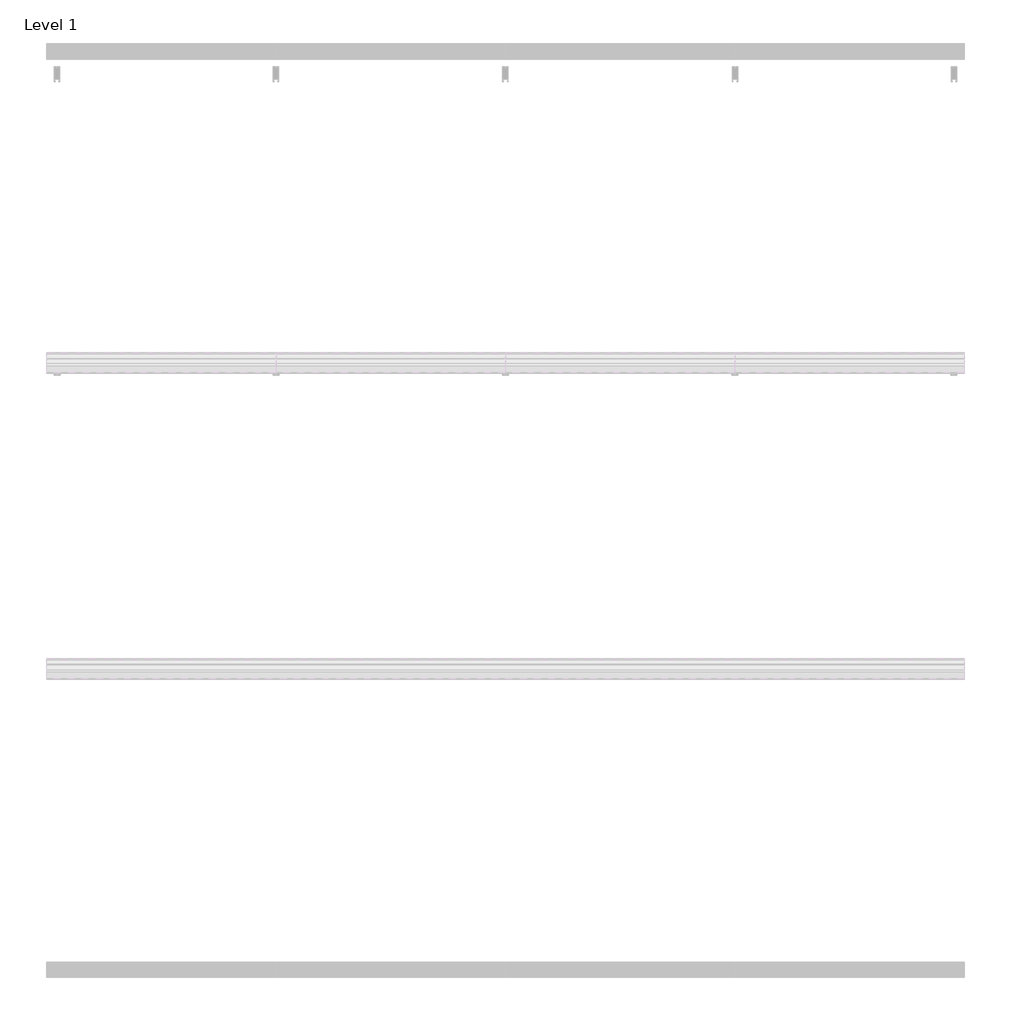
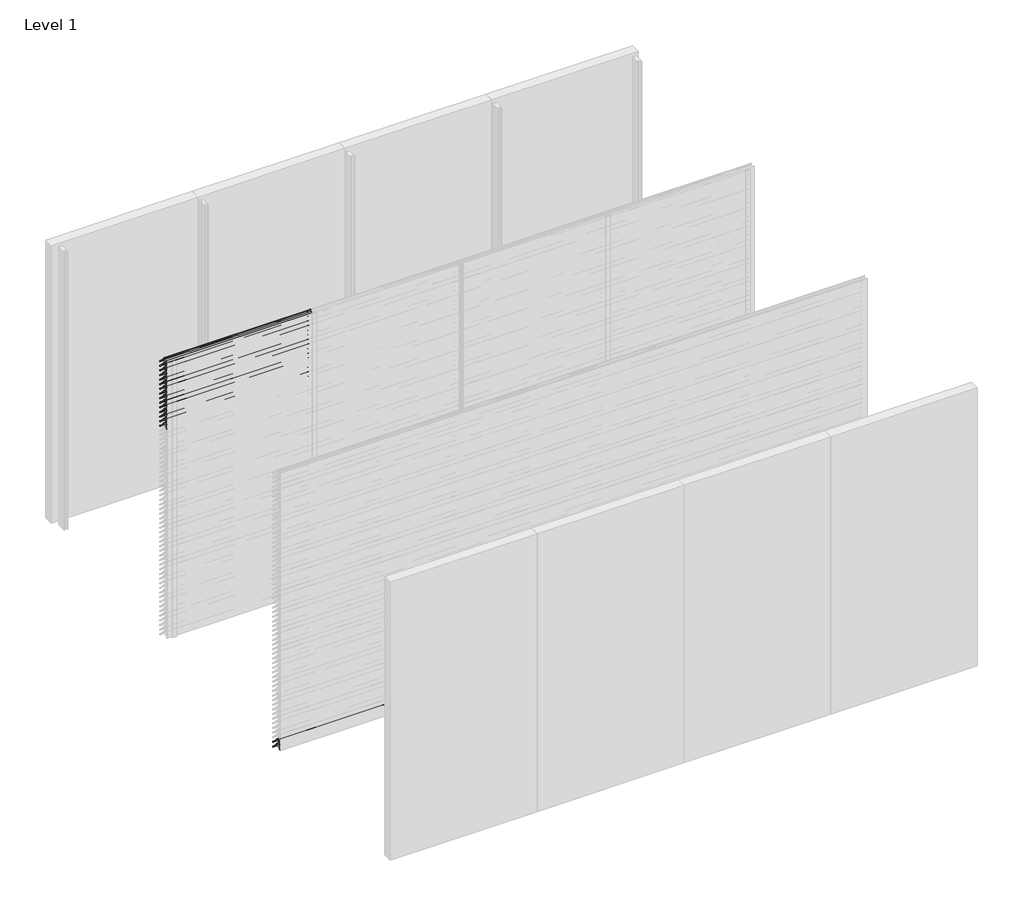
# One storey, part 92 of 173: 17 proxies.
"""IFC4 building model written with IfcOpenShell, lengths in millimetres."""

import ifcopenshell
import ifcopenshell.guid

model = None  # the IFC model being written
_history = None  # IfcOwnerHistory: only IFC2X3 demands one
_inside = {}  # id of a spatial element -> (the spatial element, [elements in it])
_under = {}  # id of a project, library or spatial element -> (it, [spatial elements below it])
_declared = {}  # id of a project -> (the project, [libraries it declares])
_typed = {}  # id of a type object -> (the type object, [elements of that type])
_made_of = {}  # id of a material, layer set ... -> (it, [elements and type objects made of it])


def new_model(schema):
    """Start an empty IFC model of exactly this schema.

    Asked for "IFC4X3", IfcOpenShell would pick the latest addendum, in which some entities
    have other attributes; the version numbers below select the first issue.
    IFC2X3 requires an IfcOwnerHistory on every rooted entity: one is made here for all.
    """
    global model, _history
    if schema == "IFC4X3":
        model = ifcopenshell.file(schema_version=(4, 3, 0, 0))
    else:
        model = ifcopenshell.file(schema=schema)
    _inside.clear()
    _under.clear()
    _declared.clear()
    _typed.clear()
    _made_of.clear()
    _history = None
    if model.schema == "IFC2X3":
        org = make("IfcOrganization", Name="unknown")
        user = make(
            "IfcPersonAndOrganization",
            ThePerson=make("IfcPerson", FamilyName="unknown"),
            TheOrganization=org,
        )
        app = make(
            "IfcApplication",
            ApplicationDeveloper=org,
            Version="unknown",
            ApplicationFullName="unknown",
            ApplicationIdentifier="unknown",
        )
        _history = make(
            "IfcOwnerHistory",
            OwningUser=user,
            OwningApplication=app,
            ChangeAction="ADDED",
            CreationDate=0,
        )
    return model


def make(cls, **values):
    """One entity of the class cls with the attributes given. An attribute that is None is left unset."""
    return model.create_entity(
        cls, **{name: value for name, value in values.items() if value is not None}
    )


def rooted(cls, **values):
    """An entity with a GlobalId (a new one), such as an element, a storey or a relation."""
    return make(cls, GlobalId=ifcopenshell.guid.new(), OwnerHistory=_history, **values)


def si_unit(unit_type, name, prefix=None):
    """IfcSIUnit, for example si_unit("LENGTHUNIT", "METRE", prefix="MILLI")."""
    return make("IfcSIUnit", UnitType=unit_type, Prefix=prefix, Name=name)


def assignment(units):
    """IfcUnitAssignment: the units of a project."""
    return None if units is None else make("IfcUnitAssignment", Units=units)


def point(xyz):
    """IfcCartesianPoint."""
    return None if xyz is None else make("IfcCartesianPoint", Coordinates=xyz)


def direction(xyz):
    """IfcDirection."""
    return None if xyz is None else make("IfcDirection", DirectionRatios=xyz)


def frame(location, z_axis=None, x_axis=None):
    """IfcAxis2Placement3D, a coordinate frame: its origin and axes. An axis left out is left unset."""
    return make(
        "IfcAxis2Placement3D",
        Location=point(location),
        Axis=direction(z_axis),
        RefDirection=direction(x_axis),
    )


def frame_2d(location, x_axis=None):
    """IfcAxis2Placement2D, a coordinate frame in the plane: its origin and x axis."""
    return make(
        "IfcAxis2Placement2D", Location=point(location), RefDirection=direction(x_axis)
    )


def origin():
    """The frame at (0, 0, 0) with its axes left unset."""
    return frame((0.0, 0.0, 0.0))


def place(relative_to, where):
    """IfcLocalPlacement: puts the frame where relative to a parent placement (None: the world)."""
    return make(
        "IfcLocalPlacement", PlacementRelTo=relative_to, RelativePlacement=where
    )


def context(
    kind, dimensions, precision=None, world=None, true_north=None, identifier=None
):
    """IfcGeometricRepresentationContext, for example the 3D "Model" context."""
    return make(
        "IfcGeometricRepresentationContext",
        ContextIdentifier=identifier,
        ContextType=kind,
        CoordinateSpaceDimension=dimensions,
        Precision=precision,
        WorldCoordinateSystem=world,
        TrueNorth=true_north,
    )


def project(units=None, contexts=None):
    """IfcProject with its units and contexts."""
    return rooted(
        "IfcProject",
        Name="project",
        RepresentationContexts=contexts,
        UnitsInContext=assignment(units),
    )


def spatial(cls, under=None, at=None, **own):
    """A site, building, storey or space (cls), placed at a placement, below another one or the project."""
    s = rooted(cls, ObjectPlacement=at, **own)
    if under is not None:
        _under.setdefault(under.id(), (under, []))[1].append(s)
    return s


def polyline(points):
    """IfcPolyline through the points."""
    return make("IfcPolyline", Points=[point(p) for p in points])


def circle_curve(where, radius):
    """IfcCircle in the frame where."""
    return make("IfcCircle", Position=where, Radius=radius)


def trimmed(basis, trim1, trim2, sense, master):
    """IfcTrimmedCurve: the piece of a basis curve between two trims."""
    return make(
        "IfcTrimmedCurve",
        BasisCurve=basis,
        Trim1=trim1,
        Trim2=trim2,
        SenseAgreement=sense,
        MasterRepresentation=master,
    )


def segment(curve, same_sense, transition):
    """IfcCompositeCurveSegment."""
    return make(
        "IfcCompositeCurveSegment",
        Transition=transition,
        SameSense=same_sense,
        ParentCurve=curve,
    )


def composite_curve(segments, self_intersect=None):
    """IfcCompositeCurve: segments joined end to end."""
    return make("IfcCompositeCurve", Segments=segments, SelfIntersect=self_intersect)


def outline(outer, holes=None, kind="AREA"):
    """IfcArbitraryClosedProfileDef: a profile drawn as a closed curve; with holes, ...WithVoids."""
    if holes is None:
        return make("IfcArbitraryClosedProfileDef", ProfileType=kind, OuterCurve=outer)
    return make(
        "IfcArbitraryProfileDefWithVoids",
        ProfileType=kind,
        OuterCurve=outer,
        InnerCurves=holes,
    )


def extrude(swept, where, along, depth):
    """IfcExtrudedAreaSolid: the profile swept, set in the frame where, extruded along a direction by depth."""
    return make(
        "IfcExtrudedAreaSolid",
        SweptArea=swept,
        Position=where,
        ExtrudedDirection=direction(along),
        Depth=depth,
    )


def shape(context_of_items, identifier, shape_type, items):
    """IfcShapeRepresentation: the items that make up one representation, for example the "Body"."""
    return make(
        "IfcShapeRepresentation",
        ContextOfItems=context_of_items,
        RepresentationIdentifier=identifier,
        RepresentationType=shape_type,
        Items=items,
    )


def made_of(thing, what):
    """Note that an element or type object is made of a material, layer set ...; save() writes the relation."""
    if what is not None:
        _made_of.setdefault(what.id(), (what, []))[1].append(thing)
    return thing


def element(
    cls,
    number,
    at=None,
    inside=None,
    cuts=None,
    type_object=None,
    material=None,
    context=None,
    identifier="Body",
    shape_type=None,
    held_by="IfcProductDefinitionShape",
    body=None,
    shapes=None,
    **own,
):
    """One element of the class cls, such as IfcWall. Its Tag is "e" and its number.

    at: its placement. inside: the storey or other place that contains it. cuts: it is an
    opening in that element (IfcRelVoidsElement). A single representation is given by context,
    identifier, shape_type and body (its items); several are given by shapes. held_by: the class
    of the entity that holds the representations. save() writes the other relations.
    """
    e = rooted(cls, Tag="e%d" % number, ObjectPlacement=at, **own)
    if body is not None:
        shapes = [shape(context, identifier, shape_type, body)]
    if shapes is not None:
        e.Representation = make(held_by, Representations=shapes)
    if inside is not None:
        _inside.setdefault(inside.id(), (inside, []))[1].append(e)
    if cuts is not None:
        rooted(
            "IfcRelVoidsElement", RelatingBuildingElement=cuts, RelatedOpeningElement=e
        )
    if type_object is not None:
        _typed.setdefault(type_object.id(), (type_object, []))[1].append(e)
    return made_of(e, material)


def aggregate(whole, parts):
    """IfcRelAggregates: a whole, such as a stair, and the parts it consists of."""
    return rooted("IfcRelAggregates", RelatingObject=whole, RelatedObjects=parts)


def save(model, path):
    """Write the relations noted so far, then the file.

    IfcRelAggregates (storeys below a building ...), IfcRelContainedInSpatialStructure (elements
    in a storey), IfcRelDefinesByType, IfcRelAssociatesMaterial and IfcRelDeclares: one each for
    every whole, place, type object, material and project.
    """
    for whole, parts in _under.values():
        aggregate(whole, parts)
    for where, things in _inside.values():
        rooted(
            "IfcRelContainedInSpatialStructure",
            RelatedElements=things,
            RelatingStructure=where,
        )
    for kind, things in _typed.values():
        rooted("IfcRelDefinesByType", RelatedObjects=things, RelatingType=kind)
    for what, things in _made_of.values():
        rooted("IfcRelAssociatesMaterial", RelatedObjects=things, RelatingMaterial=what)
    for by, libraries in _declared.values():
        rooted("IfcRelDeclares", RelatingContext=by, RelatedDefinitions=libraries)
    model.write(path)


model = new_model("IFC4")

# Units and contexts
model_context = context("Model", 3, world=origin())
ifc_project = project(units=[si_unit("LENGTHUNIT", "METRE", prefix="MILLI")], contexts=[model_context])

# Site, building, storey
site = spatial("IfcSite", under=ifc_project)
building = spatial("IfcBuilding", under=site)
storey = spatial("IfcBuildingStorey", under=building, Name="Level 1", Elevation=0.0)

# Proxies
placement = place(None, origin())
element("IfcBuildingElementProxy", 1, Name="Wall Sweeps", at=placement, inside=storey, context=model_context, shape_type="SweptSolid", body=[
    extrude(outline(composite_curve([segment(polyline([(-23998.0, 2959.1474905), (-23998.0, 2961.6227417)]), True, "CONTINUOUS"), segment(trimmed(circle_curve(frame_2d((-23951.2682172, 2916.2200208)), 65.1557103), [point((-23998.0, 2961.6227417))], [point((-23954.4014323, 2981.3003524))], False, "CARTESIAN"), True, "CONTINUOUS"), segment(polyline([(-23954.4014323, 2981.3003524), (-23934.8315836, 2981.3003524)]), True, "CONTINUOUS"), segment(trimmed(circle_curve(frame_2d((-23732.7329489, 3128.5533172)), 250.0545817), [point((-23934.8315836, 2981.3003524))], [point((-23941.4452143, 2990.8344583))], False, "CARTESIAN"), True, "CONTINUOUS"), segment(trimmed(circle_curve(frame_2d((-23953.2981792, 2985.1737835)), 13.1352966), [point((-23941.4452143, 2990.8344583))], [point((-23953.8171475, 2998.298824))], True, "CARTESIAN"), True, "CONTINUOUS"), segment(polyline([(-23953.8171475, 2998.298824), (-23953.8171475, 3000.0)]), True, "CONTINUOUS"), segment(trimmed(circle_curve(frame_2d((-23953.2981792, 2985.1737835)), 14.8352966), [point((-23953.8171475, 3000.0))], [point((-23939.9637661, 2991.6760487))], False, "CARTESIAN"), True, "CONTINUOUS"), segment(trimmed(circle_curve(frame_2d((-23732.7329489, 3128.5533172)), 248.3545817), [point((-23939.9637661, 2991.6760487))], [point((-23873.8787895, 2924.2059416))], True, "CARTESIAN"), True, "CONTINUOUS"), segment(trimmed(circle_curve(frame_2d((-23883.8147537, 2911.6649442)), 16.0), [point((-23873.8787895, 2924.2059416))], [point((-23867.8648347, 2910.4))], False, "CARTESIAN"), True, "CONTINUOUS"), segment(polyline([(-23867.8648347, 2910.4), (-23869.6712069, 2910.4)]), True, "CONTINUOUS"), segment(trimmed(circle_curve(frame_2d((-23883.8147537, 2911.6649442)), 14.2), [point((-23869.6712069, 2910.4))], [point((-23874.9518628, 2922.7594998))], True, "CARTESIAN"), True, "CONTINUOUS"), segment(trimmed(circle_curve(frame_2d((-23732.7329489, 3128.5533172)), 250.1545817), [point((-23874.9518628, 2922.7594998))], [point((-23933.7064024, 2979.6003524))], False, "CARTESIAN"), True, "CONTINUOUS"), segment(polyline([(-23933.7064024, 2979.6003524), (-23954.3602632, 2979.6003524)]), True, "CONTINUOUS"), segment(trimmed(circle_curve(frame_2d((-23951.2682172, 2916.2200208)), 63.4557103), [point((-23954.3602632, 2979.6003524))], [point((-23998.0, 2959.1474905))], True, "CARTESIAN"), True, "CONTINUOUS")], self_intersect=False)), frame((0.0, 0.0, 0.0), z_axis=(1.0, 0.0, 0.0), x_axis=(0.0, 1.0, 0.0)), (0.0, 0.0, 1.0), 1500.0),
])
element("IfcBuildingElementProxy", 2, Name="Wall Sweeps", at=placement, inside=storey, context=model_context, shape_type="SweptSolid", body=[
    extrude(outline(composite_curve([segment(polyline([(-23998.0, 2909.1474905), (-23998.0, 2911.6227417)]), True, "CONTINUOUS"), segment(trimmed(circle_curve(frame_2d((-23951.2682172, 2866.2200208)), 65.1557103), [point((-23998.0, 2911.6227417))], [point((-23954.4014323, 2931.3003524))], False, "CARTESIAN"), True, "CONTINUOUS"), segment(polyline([(-23954.4014323, 2931.3003524), (-23934.8315836, 2931.3003524)]), True, "CONTINUOUS"), segment(trimmed(circle_curve(frame_2d((-23732.7329489, 3078.5533172)), 250.0545817), [point((-23934.8315836, 2931.3003524))], [point((-23941.4452143, 2940.8344583))], False, "CARTESIAN"), True, "CONTINUOUS"), segment(trimmed(circle_curve(frame_2d((-23953.2981792, 2935.1737835)), 13.1352966), [point((-23941.4452143, 2940.8344583))], [point((-23953.8171475, 2948.298824))], True, "CARTESIAN"), True, "CONTINUOUS"), segment(polyline([(-23953.8171475, 2948.298824), (-23953.8171475, 2950.0)]), True, "CONTINUOUS"), segment(trimmed(circle_curve(frame_2d((-23953.2981792, 2935.1737835)), 14.8352966), [point((-23953.8171475, 2950.0))], [point((-23939.9637661, 2941.6760487))], False, "CARTESIAN"), True, "CONTINUOUS"), segment(trimmed(circle_curve(frame_2d((-23732.7329489, 3078.5533172)), 248.3545817), [point((-23939.9637661, 2941.6760487))], [point((-23873.8787895, 2874.2059416))], True, "CARTESIAN"), True, "CONTINUOUS"), segment(trimmed(circle_curve(frame_2d((-23883.8147537, 2861.6649442)), 16.0), [point((-23873.8787895, 2874.2059416))], [point((-23867.8648347, 2860.4))], False, "CARTESIAN"), True, "CONTINUOUS"), segment(polyline([(-23867.8648347, 2860.4), (-23869.6712069, 2860.4)]), True, "CONTINUOUS"), segment(trimmed(circle_curve(frame_2d((-23883.8147537, 2861.6649442)), 14.2), [point((-23869.6712069, 2860.4))], [point((-23874.9518628, 2872.7594998))], True, "CARTESIAN"), True, "CONTINUOUS"), segment(trimmed(circle_curve(frame_2d((-23732.7329489, 3078.5533172)), 250.1545817), [point((-23874.9518628, 2872.7594998))], [point((-23933.7064024, 2929.6003524))], False, "CARTESIAN"), True, "CONTINUOUS"), segment(polyline([(-23933.7064024, 2929.6003524), (-23954.3602632, 2929.6003524)]), True, "CONTINUOUS"), segment(trimmed(circle_curve(frame_2d((-23951.2682172, 2866.2200208)), 63.4557103), [point((-23954.3602632, 2929.6003524))], [point((-23998.0, 2909.1474905))], True, "CARTESIAN"), True, "CONTINUOUS")], self_intersect=False)), frame((0.0, 0.0, 0.0), z_axis=(1.0, 0.0, 0.0), x_axis=(0.0, 1.0, 0.0)), (0.0, 0.0, 1.0), 1500.0),
])
element("IfcBuildingElementProxy", 3, Name="Wall Sweeps", at=placement, inside=storey, context=model_context, shape_type="SweptSolid", body=[
    extrude(outline(composite_curve([segment(polyline([(-23998.0, 2859.1474905), (-23998.0, 2861.6227417)]), True, "CONTINUOUS"), segment(trimmed(circle_curve(frame_2d((-23951.2682172, 2816.2200208)), 65.1557103), [point((-23998.0, 2861.6227417))], [point((-23954.4014323, 2881.3003524))], False, "CARTESIAN"), True, "CONTINUOUS"), segment(polyline([(-23954.4014323, 2881.3003524), (-23934.8315836, 2881.3003524)]), True, "CONTINUOUS"), segment(trimmed(circle_curve(frame_2d((-23732.7329489, 3028.5533172)), 250.0545817), [point((-23934.8315836, 2881.3003524))], [point((-23941.4452143, 2890.8344583))], False, "CARTESIAN"), True, "CONTINUOUS"), segment(trimmed(circle_curve(frame_2d((-23953.2981792, 2885.1737835)), 13.1352966), [point((-23941.4452143, 2890.8344583))], [point((-23953.8171475, 2898.298824))], True, "CARTESIAN"), True, "CONTINUOUS"), segment(polyline([(-23953.8171475, 2898.298824), (-23953.8171475, 2900.0)]), True, "CONTINUOUS"), segment(trimmed(circle_curve(frame_2d((-23953.2981792, 2885.1737835)), 14.8352966), [point((-23953.8171475, 2900.0))], [point((-23939.9637661, 2891.6760487))], False, "CARTESIAN"), True, "CONTINUOUS"), segment(trimmed(circle_curve(frame_2d((-23732.7329489, 3028.5533172)), 248.3545817), [point((-23939.9637661, 2891.6760487))], [point((-23873.8787895, 2824.2059416))], True, "CARTESIAN"), True, "CONTINUOUS"), segment(trimmed(circle_curve(frame_2d((-23883.8147537, 2811.6649442)), 16.0), [point((-23873.8787895, 2824.2059416))], [point((-23867.8648347, 2810.4))], False, "CARTESIAN"), True, "CONTINUOUS"), segment(polyline([(-23867.8648347, 2810.4), (-23869.6712069, 2810.4)]), True, "CONTINUOUS"), segment(trimmed(circle_curve(frame_2d((-23883.8147537, 2811.6649442)), 14.2), [point((-23869.6712069, 2810.4))], [point((-23874.9518628, 2822.7594998))], True, "CARTESIAN"), True, "CONTINUOUS"), segment(trimmed(circle_curve(frame_2d((-23732.7329489, 3028.5533172)), 250.1545817), [point((-23874.9518628, 2822.7594998))], [point((-23933.7064024, 2879.6003524))], False, "CARTESIAN"), True, "CONTINUOUS"), segment(polyline([(-23933.7064024, 2879.6003524), (-23954.3602632, 2879.6003524)]), True, "CONTINUOUS"), segment(trimmed(circle_curve(frame_2d((-23951.2682172, 2816.2200208)), 63.4557103), [point((-23954.3602632, 2879.6003524))], [point((-23998.0, 2859.1474905))], True, "CARTESIAN"), True, "CONTINUOUS")], self_intersect=False)), frame((0.0, 0.0, 0.0), z_axis=(1.0, 0.0, 0.0), x_axis=(0.0, 1.0, 0.0)), (0.0, 0.0, 1.0), 1500.0),
])
element("IfcBuildingElementProxy", 4, Name="Wall Sweeps", at=placement, inside=storey, context=model_context, shape_type="SweptSolid", body=[
    extrude(outline(composite_curve([segment(polyline([(-23998.0, 2809.1474905), (-23998.0, 2811.6227417)]), True, "CONTINUOUS"), segment(trimmed(circle_curve(frame_2d((-23951.2682172, 2766.2200208)), 65.1557103), [point((-23998.0, 2811.6227417))], [point((-23954.4014323, 2831.3003524))], False, "CARTESIAN"), True, "CONTINUOUS"), segment(polyline([(-23954.4014323, 2831.3003524), (-23934.8315836, 2831.3003524)]), True, "CONTINUOUS"), segment(trimmed(circle_curve(frame_2d((-23732.7329489, 2978.5533172)), 250.0545817), [point((-23934.8315836, 2831.3003524))], [point((-23941.4452143, 2840.8344583))], False, "CARTESIAN"), True, "CONTINUOUS"), segment(trimmed(circle_curve(frame_2d((-23953.2981792, 2835.1737835)), 13.1352966), [point((-23941.4452143, 2840.8344583))], [point((-23953.8171475, 2848.298824))], True, "CARTESIAN"), True, "CONTINUOUS"), segment(polyline([(-23953.8171475, 2848.298824), (-23953.8171475, 2850.0)]), True, "CONTINUOUS"), segment(trimmed(circle_curve(frame_2d((-23953.2981792, 2835.1737835)), 14.8352966), [point((-23953.8171475, 2850.0))], [point((-23939.9637661, 2841.6760487))], False, "CARTESIAN"), True, "CONTINUOUS"), segment(trimmed(circle_curve(frame_2d((-23732.7329489, 2978.5533172)), 248.3545817), [point((-23939.9637661, 2841.6760487))], [point((-23873.8787895, 2774.2059416))], True, "CARTESIAN"), True, "CONTINUOUS"), segment(trimmed(circle_curve(frame_2d((-23883.8147537, 2761.6649442)), 16.0), [point((-23873.8787895, 2774.2059416))], [point((-23867.8648347, 2760.4))], False, "CARTESIAN"), True, "CONTINUOUS"), segment(polyline([(-23867.8648347, 2760.4), (-23869.6712069, 2760.4)]), True, "CONTINUOUS"), segment(trimmed(circle_curve(frame_2d((-23883.8147537, 2761.6649442)), 14.2), [point((-23869.6712069, 2760.4))], [point((-23874.9518628, 2772.7594998))], True, "CARTESIAN"), True, "CONTINUOUS"), segment(trimmed(circle_curve(frame_2d((-23732.7329489, 2978.5533172)), 250.1545817), [point((-23874.9518628, 2772.7594998))], [point((-23933.7064024, 2829.6003524))], False, "CARTESIAN"), True, "CONTINUOUS"), segment(polyline([(-23933.7064024, 2829.6003524), (-23954.3602632, 2829.6003524)]), True, "CONTINUOUS"), segment(trimmed(circle_curve(frame_2d((-23951.2682172, 2766.2200208)), 63.4557103), [point((-23954.3602632, 2829.6003524))], [point((-23998.0, 2809.1474905))], True, "CARTESIAN"), True, "CONTINUOUS")], self_intersect=False)), frame((0.0, 0.0, 0.0), z_axis=(1.0, 0.0, 0.0), x_axis=(0.0, 1.0, 0.0)), (0.0, 0.0, 1.0), 1500.0),
])
element("IfcBuildingElementProxy", 5, Name="Wall Sweeps", at=placement, inside=storey, context=model_context, shape_type="SweptSolid", body=[
    extrude(outline(composite_curve([segment(polyline([(-23998.0, 2759.1474905), (-23998.0, 2761.6227417)]), True, "CONTINUOUS"), segment(trimmed(circle_curve(frame_2d((-23951.2682172, 2716.2200208)), 65.1557103), [point((-23998.0, 2761.6227417))], [point((-23954.4014323, 2781.3003524))], False, "CARTESIAN"), True, "CONTINUOUS"), segment(polyline([(-23954.4014323, 2781.3003524), (-23934.8315836, 2781.3003524)]), True, "CONTINUOUS"), segment(trimmed(circle_curve(frame_2d((-23732.7329489, 2928.5533172)), 250.0545817), [point((-23934.8315836, 2781.3003524))], [point((-23941.4452143, 2790.8344583))], False, "CARTESIAN"), True, "CONTINUOUS"), segment(trimmed(circle_curve(frame_2d((-23953.2981792, 2785.1737835)), 13.1352966), [point((-23941.4452143, 2790.8344583))], [point((-23953.8171475, 2798.298824))], True, "CARTESIAN"), True, "CONTINUOUS"), segment(polyline([(-23953.8171475, 2798.298824), (-23953.8171475, 2800.0)]), True, "CONTINUOUS"), segment(trimmed(circle_curve(frame_2d((-23953.2981792, 2785.1737835)), 14.8352966), [point((-23953.8171475, 2800.0))], [point((-23939.9637661, 2791.6760487))], False, "CARTESIAN"), True, "CONTINUOUS"), segment(trimmed(circle_curve(frame_2d((-23732.7329489, 2928.5533172)), 248.3545817), [point((-23939.9637661, 2791.6760487))], [point((-23873.8787895, 2724.2059416))], True, "CARTESIAN"), True, "CONTINUOUS"), segment(trimmed(circle_curve(frame_2d((-23883.8147537, 2711.6649442)), 16.0), [point((-23873.8787895, 2724.2059416))], [point((-23867.8648347, 2710.4))], False, "CARTESIAN"), True, "CONTINUOUS"), segment(polyline([(-23867.8648347, 2710.4), (-23869.6712069, 2710.4)]), True, "CONTINUOUS"), segment(trimmed(circle_curve(frame_2d((-23883.8147537, 2711.6649442)), 14.2), [point((-23869.6712069, 2710.4))], [point((-23874.9518628, 2722.7594998))], True, "CARTESIAN"), True, "CONTINUOUS"), segment(trimmed(circle_curve(frame_2d((-23732.7329489, 2928.5533172)), 250.1545817), [point((-23874.9518628, 2722.7594998))], [point((-23933.7064024, 2779.6003524))], False, "CARTESIAN"), True, "CONTINUOUS"), segment(polyline([(-23933.7064024, 2779.6003524), (-23954.3602632, 2779.6003524)]), True, "CONTINUOUS"), segment(trimmed(circle_curve(frame_2d((-23951.2682172, 2716.2200208)), 63.4557103), [point((-23954.3602632, 2779.6003524))], [point((-23998.0, 2759.1474905))], True, "CARTESIAN"), True, "CONTINUOUS")], self_intersect=False)), frame((0.0, 0.0, 0.0), z_axis=(1.0, 0.0, 0.0), x_axis=(0.0, 1.0, 0.0)), (0.0, 0.0, 1.0), 1500.0),
])
element("IfcBuildingElementProxy", 6, Name="Wall Sweeps", at=placement, inside=storey, context=model_context, shape_type="SweptSolid", body=[
    extrude(outline(composite_curve([segment(polyline([(-23998.0, 2709.1474905), (-23998.0, 2711.6227417)]), True, "CONTINUOUS"), segment(trimmed(circle_curve(frame_2d((-23951.2682172, 2666.2200208)), 65.1557103), [point((-23998.0, 2711.6227417))], [point((-23954.4014323, 2731.3003524))], False, "CARTESIAN"), True, "CONTINUOUS"), segment(polyline([(-23954.4014323, 2731.3003524), (-23934.8315836, 2731.3003524)]), True, "CONTINUOUS"), segment(trimmed(circle_curve(frame_2d((-23732.7329489, 2878.5533172)), 250.0545817), [point((-23934.8315836, 2731.3003524))], [point((-23941.4452143, 2740.8344583))], False, "CARTESIAN"), True, "CONTINUOUS"), segment(trimmed(circle_curve(frame_2d((-23953.2981792, 2735.1737835)), 13.1352966), [point((-23941.4452143, 2740.8344583))], [point((-23953.8171475, 2748.298824))], True, "CARTESIAN"), True, "CONTINUOUS"), segment(polyline([(-23953.8171475, 2748.298824), (-23953.8171475, 2750.0)]), True, "CONTINUOUS"), segment(trimmed(circle_curve(frame_2d((-23953.2981792, 2735.1737835)), 14.8352966), [point((-23953.8171475, 2750.0))], [point((-23939.9637661, 2741.6760487))], False, "CARTESIAN"), True, "CONTINUOUS"), segment(trimmed(circle_curve(frame_2d((-23732.7329489, 2878.5533172)), 248.3545817), [point((-23939.9637661, 2741.6760487))], [point((-23873.8787895, 2674.2059416))], True, "CARTESIAN"), True, "CONTINUOUS"), segment(trimmed(circle_curve(frame_2d((-23883.8147537, 2661.6649442)), 16.0), [point((-23873.8787895, 2674.2059416))], [point((-23867.8648347, 2660.4))], False, "CARTESIAN"), True, "CONTINUOUS"), segment(polyline([(-23867.8648347, 2660.4), (-23869.6712069, 2660.4)]), True, "CONTINUOUS"), segment(trimmed(circle_curve(frame_2d((-23883.8147537, 2661.6649442)), 14.2), [point((-23869.6712069, 2660.4))], [point((-23874.9518628, 2672.7594998))], True, "CARTESIAN"), True, "CONTINUOUS"), segment(trimmed(circle_curve(frame_2d((-23732.7329489, 2878.5533172)), 250.1545817), [point((-23874.9518628, 2672.7594998))], [point((-23933.7064024, 2729.6003524))], False, "CARTESIAN"), True, "CONTINUOUS"), segment(polyline([(-23933.7064024, 2729.6003524), (-23954.3602632, 2729.6003524)]), True, "CONTINUOUS"), segment(trimmed(circle_curve(frame_2d((-23951.2682172, 2666.2200208)), 63.4557103), [point((-23954.3602632, 2729.6003524))], [point((-23998.0, 2709.1474905))], True, "CARTESIAN"), True, "CONTINUOUS")], self_intersect=False)), frame((0.0, 0.0, 0.0), z_axis=(1.0, 0.0, 0.0), x_axis=(0.0, 1.0, 0.0)), (0.0, 0.0, 1.0), 1500.0),
])
element("IfcBuildingElementProxy", 7, Name="Wall Sweeps", at=placement, inside=storey, context=model_context, shape_type="SweptSolid", body=[
    extrude(outline(composite_curve([segment(polyline([(-23998.0, 2659.1474905), (-23998.0, 2661.6227417)]), True, "CONTINUOUS"), segment(trimmed(circle_curve(frame_2d((-23951.2682172, 2616.2200208)), 65.1557103), [point((-23998.0, 2661.6227417))], [point((-23954.4014323, 2681.3003524))], False, "CARTESIAN"), True, "CONTINUOUS"), segment(polyline([(-23954.4014323, 2681.3003524), (-23934.8315836, 2681.3003524)]), True, "CONTINUOUS"), segment(trimmed(circle_curve(frame_2d((-23732.7329489, 2828.5533172)), 250.0545817), [point((-23934.8315836, 2681.3003524))], [point((-23941.4452143, 2690.8344583))], False, "CARTESIAN"), True, "CONTINUOUS"), segment(trimmed(circle_curve(frame_2d((-23953.2981792, 2685.1737835)), 13.1352966), [point((-23941.4452143, 2690.8344583))], [point((-23953.8171475, 2698.298824))], True, "CARTESIAN"), True, "CONTINUOUS"), segment(polyline([(-23953.8171475, 2698.298824), (-23953.8171475, 2700.0)]), True, "CONTINUOUS"), segment(trimmed(circle_curve(frame_2d((-23953.2981792, 2685.1737835)), 14.8352966), [point((-23953.8171475, 2700.0))], [point((-23939.9637661, 2691.6760487))], False, "CARTESIAN"), True, "CONTINUOUS"), segment(trimmed(circle_curve(frame_2d((-23732.7329489, 2828.5533172)), 248.3545817), [point((-23939.9637661, 2691.6760487))], [point((-23873.8787895, 2624.2059416))], True, "CARTESIAN"), True, "CONTINUOUS"), segment(trimmed(circle_curve(frame_2d((-23883.8147537, 2611.6649442)), 16.0), [point((-23873.8787895, 2624.2059416))], [point((-23867.8648347, 2610.4))], False, "CARTESIAN"), True, "CONTINUOUS"), segment(polyline([(-23867.8648347, 2610.4), (-23869.6712069, 2610.4)]), True, "CONTINUOUS"), segment(trimmed(circle_curve(frame_2d((-23883.8147537, 2611.6649442)), 14.2), [point((-23869.6712069, 2610.4))], [point((-23874.9518628, 2622.7594998))], True, "CARTESIAN"), True, "CONTINUOUS"), segment(trimmed(circle_curve(frame_2d((-23732.7329489, 2828.5533172)), 250.1545817), [point((-23874.9518628, 2622.7594998))], [point((-23933.7064024, 2679.6003524))], False, "CARTESIAN"), True, "CONTINUOUS"), segment(polyline([(-23933.7064024, 2679.6003524), (-23954.3602632, 2679.6003524)]), True, "CONTINUOUS"), segment(trimmed(circle_curve(frame_2d((-23951.2682172, 2616.2200208)), 63.4557103), [point((-23954.3602632, 2679.6003524))], [point((-23998.0, 2659.1474905))], True, "CARTESIAN"), True, "CONTINUOUS")], self_intersect=False)), frame((0.0, 0.0, 0.0), z_axis=(1.0, 0.0, 0.0), x_axis=(0.0, 1.0, 0.0)), (0.0, 0.0, 1.0), 1500.0),
])
element("IfcBuildingElementProxy", 8, Name="Wall Sweeps", at=placement, inside=storey, context=model_context, shape_type="SweptSolid", body=[
    extrude(outline(composite_curve([segment(polyline([(-23998.0, 2609.1474905), (-23998.0, 2611.6227417)]), True, "CONTINUOUS"), segment(trimmed(circle_curve(frame_2d((-23951.2682172, 2566.2200208)), 65.1557103), [point((-23998.0, 2611.6227417))], [point((-23954.4014323, 2631.3003524))], False, "CARTESIAN"), True, "CONTINUOUS"), segment(polyline([(-23954.4014323, 2631.3003524), (-23934.8315836, 2631.3003524)]), True, "CONTINUOUS"), segment(trimmed(circle_curve(frame_2d((-23732.7329489, 2778.5533172)), 250.0545817), [point((-23934.8315836, 2631.3003524))], [point((-23941.4452143, 2640.8344583))], False, "CARTESIAN"), True, "CONTINUOUS"), segment(trimmed(circle_curve(frame_2d((-23953.2981792, 2635.1737835)), 13.1352966), [point((-23941.4452143, 2640.8344583))], [point((-23953.8171475, 2648.298824))], True, "CARTESIAN"), True, "CONTINUOUS"), segment(polyline([(-23953.8171475, 2648.298824), (-23953.8171475, 2650.0)]), True, "CONTINUOUS"), segment(trimmed(circle_curve(frame_2d((-23953.2981792, 2635.1737835)), 14.8352966), [point((-23953.8171475, 2650.0))], [point((-23939.9637661, 2641.6760487))], False, "CARTESIAN"), True, "CONTINUOUS"), segment(trimmed(circle_curve(frame_2d((-23732.7329489, 2778.5533172)), 248.3545817), [point((-23939.9637661, 2641.6760487))], [point((-23873.8787895, 2574.2059416))], True, "CARTESIAN"), True, "CONTINUOUS"), segment(trimmed(circle_curve(frame_2d((-23883.8147537, 2561.6649442)), 16.0), [point((-23873.8787895, 2574.2059416))], [point((-23867.8648347, 2560.4))], False, "CARTESIAN"), True, "CONTINUOUS"), segment(polyline([(-23867.8648347, 2560.4), (-23869.6712069, 2560.4)]), True, "CONTINUOUS"), segment(trimmed(circle_curve(frame_2d((-23883.8147537, 2561.6649442)), 14.2), [point((-23869.6712069, 2560.4))], [point((-23874.9518628, 2572.7594998))], True, "CARTESIAN"), True, "CONTINUOUS"), segment(trimmed(circle_curve(frame_2d((-23732.7329489, 2778.5533172)), 250.1545817), [point((-23874.9518628, 2572.7594998))], [point((-23933.7064024, 2629.6003524))], False, "CARTESIAN"), True, "CONTINUOUS"), segment(polyline([(-23933.7064024, 2629.6003524), (-23954.3602632, 2629.6003524)]), True, "CONTINUOUS"), segment(trimmed(circle_curve(frame_2d((-23951.2682172, 2566.2200208)), 63.4557103), [point((-23954.3602632, 2629.6003524))], [point((-23998.0, 2609.1474905))], True, "CARTESIAN"), True, "CONTINUOUS")], self_intersect=False)), frame((0.0, 0.0, 0.0), z_axis=(1.0, 0.0, 0.0), x_axis=(0.0, 1.0, 0.0)), (0.0, 0.0, 1.0), 1500.0),
])
element("IfcBuildingElementProxy", 9, Name="Wall Sweeps", at=placement, inside=storey, context=model_context, shape_type="SweptSolid", body=[
    extrude(outline(composite_curve([segment(polyline([(-23998.0, 2559.1474905), (-23998.0, 2561.6227417)]), True, "CONTINUOUS"), segment(trimmed(circle_curve(frame_2d((-23951.2682172, 2516.2200208)), 65.1557103), [point((-23998.0, 2561.6227417))], [point((-23954.4014323, 2581.3003524))], False, "CARTESIAN"), True, "CONTINUOUS"), segment(polyline([(-23954.4014323, 2581.3003524), (-23934.8315836, 2581.3003524)]), True, "CONTINUOUS"), segment(trimmed(circle_curve(frame_2d((-23732.7329489, 2728.5533172)), 250.0545817), [point((-23934.8315836, 2581.3003524))], [point((-23941.4452143, 2590.8344583))], False, "CARTESIAN"), True, "CONTINUOUS"), segment(trimmed(circle_curve(frame_2d((-23953.2981792, 2585.1737835)), 13.1352966), [point((-23941.4452143, 2590.8344583))], [point((-23953.8171475, 2598.298824))], True, "CARTESIAN"), True, "CONTINUOUS"), segment(polyline([(-23953.8171475, 2598.298824), (-23953.8171475, 2600.0)]), True, "CONTINUOUS"), segment(trimmed(circle_curve(frame_2d((-23953.2981792, 2585.1737835)), 14.8352966), [point((-23953.8171475, 2600.0))], [point((-23939.9637661, 2591.6760487))], False, "CARTESIAN"), True, "CONTINUOUS"), segment(trimmed(circle_curve(frame_2d((-23732.7329489, 2728.5533172)), 248.3545817), [point((-23939.9637661, 2591.6760487))], [point((-23873.8787895, 2524.2059416))], True, "CARTESIAN"), True, "CONTINUOUS"), segment(trimmed(circle_curve(frame_2d((-23883.8147537, 2511.6649442)), 16.0), [point((-23873.8787895, 2524.2059416))], [point((-23867.8648347, 2510.4))], False, "CARTESIAN"), True, "CONTINUOUS"), segment(polyline([(-23867.8648347, 2510.4), (-23869.6712069, 2510.4)]), True, "CONTINUOUS"), segment(trimmed(circle_curve(frame_2d((-23883.8147537, 2511.6649442)), 14.2), [point((-23869.6712069, 2510.4))], [point((-23874.9518628, 2522.7594998))], True, "CARTESIAN"), True, "CONTINUOUS"), segment(trimmed(circle_curve(frame_2d((-23732.7329489, 2728.5533172)), 250.1545817), [point((-23874.9518628, 2522.7594998))], [point((-23933.7064024, 2579.6003524))], False, "CARTESIAN"), True, "CONTINUOUS"), segment(polyline([(-23933.7064024, 2579.6003524), (-23954.3602632, 2579.6003524)]), True, "CONTINUOUS"), segment(trimmed(circle_curve(frame_2d((-23951.2682172, 2516.2200208)), 63.4557103), [point((-23954.3602632, 2579.6003524))], [point((-23998.0, 2559.1474905))], True, "CARTESIAN"), True, "CONTINUOUS")], self_intersect=False)), frame((0.0, 0.0, 0.0), z_axis=(1.0, 0.0, 0.0), x_axis=(0.0, 1.0, 0.0)), (0.0, 0.0, 1.0), 1500.0),
])
element("IfcBuildingElementProxy", 10, Name="Wall Sweeps", at=placement, inside=storey, context=model_context, shape_type="SweptSolid", body=[
    extrude(outline(composite_curve([segment(polyline([(-23998.0, 2509.1474905), (-23998.0, 2511.6227417)]), True, "CONTINUOUS"), segment(trimmed(circle_curve(frame_2d((-23951.2682172, 2466.2200208)), 65.1557103), [point((-23998.0, 2511.6227417))], [point((-23954.4014323, 2531.3003524))], False, "CARTESIAN"), True, "CONTINUOUS"), segment(polyline([(-23954.4014323, 2531.3003524), (-23934.8315836, 2531.3003524)]), True, "CONTINUOUS"), segment(trimmed(circle_curve(frame_2d((-23732.7329489, 2678.5533172)), 250.0545817), [point((-23934.8315836, 2531.3003524))], [point((-23941.4452143, 2540.8344583))], False, "CARTESIAN"), True, "CONTINUOUS"), segment(trimmed(circle_curve(frame_2d((-23953.2981792, 2535.1737835)), 13.1352966), [point((-23941.4452143, 2540.8344583))], [point((-23953.8171475, 2548.298824))], True, "CARTESIAN"), True, "CONTINUOUS"), segment(polyline([(-23953.8171475, 2548.298824), (-23953.8171475, 2550.0)]), True, "CONTINUOUS"), segment(trimmed(circle_curve(frame_2d((-23953.2981792, 2535.1737835)), 14.8352966), [point((-23953.8171475, 2550.0))], [point((-23939.9637661, 2541.6760487))], False, "CARTESIAN"), True, "CONTINUOUS"), segment(trimmed(circle_curve(frame_2d((-23732.7329489, 2678.5533172)), 248.3545817), [point((-23939.9637661, 2541.6760487))], [point((-23873.8787895, 2474.2059416))], True, "CARTESIAN"), True, "CONTINUOUS"), segment(trimmed(circle_curve(frame_2d((-23883.8147537, 2461.6649442)), 16.0), [point((-23873.8787895, 2474.2059416))], [point((-23867.8648347, 2460.4))], False, "CARTESIAN"), True, "CONTINUOUS"), segment(polyline([(-23867.8648347, 2460.4), (-23869.6712069, 2460.4)]), True, "CONTINUOUS"), segment(trimmed(circle_curve(frame_2d((-23883.8147537, 2461.6649442)), 14.2), [point((-23869.6712069, 2460.4))], [point((-23874.9518628, 2472.7594998))], True, "CARTESIAN"), True, "CONTINUOUS"), segment(trimmed(circle_curve(frame_2d((-23732.7329489, 2678.5533172)), 250.1545817), [point((-23874.9518628, 2472.7594998))], [point((-23933.7064024, 2529.6003524))], False, "CARTESIAN"), True, "CONTINUOUS"), segment(polyline([(-23933.7064024, 2529.6003524), (-23954.3602632, 2529.6003524)]), True, "CONTINUOUS"), segment(trimmed(circle_curve(frame_2d((-23951.2682172, 2466.2200208)), 63.4557103), [point((-23954.3602632, 2529.6003524))], [point((-23998.0, 2509.1474905))], True, "CARTESIAN"), True, "CONTINUOUS")], self_intersect=False)), frame((0.0, 0.0, 0.0), z_axis=(1.0, 0.0, 0.0), x_axis=(0.0, 1.0, 0.0)), (0.0, 0.0, 1.0), 1500.0),
])
element("IfcBuildingElementProxy", 11, Name="Wall Sweeps", at=placement, inside=storey, context=model_context, shape_type="SweptSolid", body=[
    extrude(outline(composite_curve([segment(polyline([(-23998.0, 2459.1474905), (-23998.0, 2461.6227417)]), True, "CONTINUOUS"), segment(trimmed(circle_curve(frame_2d((-23951.2682172, 2416.2200208)), 65.1557103), [point((-23998.0, 2461.6227417))], [point((-23954.4014323, 2481.3003524))], False, "CARTESIAN"), True, "CONTINUOUS"), segment(polyline([(-23954.4014323, 2481.3003524), (-23934.8315836, 2481.3003524)]), True, "CONTINUOUS"), segment(trimmed(circle_curve(frame_2d((-23732.7329489, 2628.5533172)), 250.0545817), [point((-23934.8315836, 2481.3003524))], [point((-23941.4452143, 2490.8344583))], False, "CARTESIAN"), True, "CONTINUOUS"), segment(trimmed(circle_curve(frame_2d((-23953.2981792, 2485.1737835)), 13.1352966), [point((-23941.4452143, 2490.8344583))], [point((-23953.8171475, 2498.298824))], True, "CARTESIAN"), True, "CONTINUOUS"), segment(polyline([(-23953.8171475, 2498.298824), (-23953.8171475, 2500.0)]), True, "CONTINUOUS"), segment(trimmed(circle_curve(frame_2d((-23953.2981792, 2485.1737835)), 14.8352966), [point((-23953.8171475, 2500.0))], [point((-23939.9637661, 2491.6760487))], False, "CARTESIAN"), True, "CONTINUOUS"), segment(trimmed(circle_curve(frame_2d((-23732.7329489, 2628.5533172)), 248.3545817), [point((-23939.9637661, 2491.6760487))], [point((-23873.8787895, 2424.2059416))], True, "CARTESIAN"), True, "CONTINUOUS"), segment(trimmed(circle_curve(frame_2d((-23883.8147537, 2411.6649442)), 16.0), [point((-23873.8787895, 2424.2059416))], [point((-23867.8648347, 2410.4))], False, "CARTESIAN"), True, "CONTINUOUS"), segment(polyline([(-23867.8648347, 2410.4), (-23869.6712069, 2410.4)]), True, "CONTINUOUS"), segment(trimmed(circle_curve(frame_2d((-23883.8147537, 2411.6649442)), 14.2), [point((-23869.6712069, 2410.4))], [point((-23874.9518628, 2422.7594998))], True, "CARTESIAN"), True, "CONTINUOUS"), segment(trimmed(circle_curve(frame_2d((-23732.7329489, 2628.5533172)), 250.1545817), [point((-23874.9518628, 2422.7594998))], [point((-23933.7064024, 2479.6003524))], False, "CARTESIAN"), True, "CONTINUOUS"), segment(polyline([(-23933.7064024, 2479.6003524), (-23954.3602632, 2479.6003524)]), True, "CONTINUOUS"), segment(trimmed(circle_curve(frame_2d((-23951.2682172, 2416.2200208)), 63.4557103), [point((-23954.3602632, 2479.6003524))], [point((-23998.0, 2459.1474905))], True, "CARTESIAN"), True, "CONTINUOUS")], self_intersect=False)), frame((0.0, 0.0, 0.0), z_axis=(1.0, 0.0, 0.0), x_axis=(0.0, 1.0, 0.0)), (0.0, 0.0, 1.0), 1500.0),
])
element("IfcBuildingElementProxy", 12, Name="Wall Sweeps", at=placement, inside=storey, context=model_context, shape_type="SweptSolid", body=[
    extrude(outline(composite_curve([segment(polyline([(-23998.0, 2409.1474905), (-23998.0, 2411.6227417)]), True, "CONTINUOUS"), segment(trimmed(circle_curve(frame_2d((-23951.2682172, 2366.2200208)), 65.1557103), [point((-23998.0, 2411.6227417))], [point((-23954.4014323, 2431.3003524))], False, "CARTESIAN"), True, "CONTINUOUS"), segment(polyline([(-23954.4014323, 2431.3003524), (-23934.8315836, 2431.3003524)]), True, "CONTINUOUS"), segment(trimmed(circle_curve(frame_2d((-23732.7329489, 2578.5533172)), 250.0545817), [point((-23934.8315836, 2431.3003524))], [point((-23941.4452143, 2440.8344583))], False, "CARTESIAN"), True, "CONTINUOUS"), segment(trimmed(circle_curve(frame_2d((-23953.2981792, 2435.1737835)), 13.1352966), [point((-23941.4452143, 2440.8344583))], [point((-23953.8171475, 2448.298824))], True, "CARTESIAN"), True, "CONTINUOUS"), segment(polyline([(-23953.8171475, 2448.298824), (-23953.8171475, 2450.0)]), True, "CONTINUOUS"), segment(trimmed(circle_curve(frame_2d((-23953.2981792, 2435.1737835)), 14.8352966), [point((-23953.8171475, 2450.0))], [point((-23939.9637661, 2441.6760487))], False, "CARTESIAN"), True, "CONTINUOUS"), segment(trimmed(circle_curve(frame_2d((-23732.7329489, 2578.5533172)), 248.3545817), [point((-23939.9637661, 2441.6760487))], [point((-23873.8787895, 2374.2059416))], True, "CARTESIAN"), True, "CONTINUOUS"), segment(trimmed(circle_curve(frame_2d((-23883.8147537, 2361.6649442)), 16.0), [point((-23873.8787895, 2374.2059416))], [point((-23867.8648347, 2360.4))], False, "CARTESIAN"), True, "CONTINUOUS"), segment(polyline([(-23867.8648347, 2360.4), (-23869.6712069, 2360.4)]), True, "CONTINUOUS"), segment(trimmed(circle_curve(frame_2d((-23883.8147537, 2361.6649442)), 14.2), [point((-23869.6712069, 2360.4))], [point((-23874.9518628, 2372.7594998))], True, "CARTESIAN"), True, "CONTINUOUS"), segment(trimmed(circle_curve(frame_2d((-23732.7329489, 2578.5533172)), 250.1545817), [point((-23874.9518628, 2372.7594998))], [point((-23933.7064024, 2429.6003524))], False, "CARTESIAN"), True, "CONTINUOUS"), segment(polyline([(-23933.7064024, 2429.6003524), (-23954.3602632, 2429.6003524)]), True, "CONTINUOUS"), segment(trimmed(circle_curve(frame_2d((-23951.2682172, 2366.2200208)), 63.4557103), [point((-23954.3602632, 2429.6003524))], [point((-23998.0, 2409.1474905))], True, "CARTESIAN"), True, "CONTINUOUS")], self_intersect=False)), frame((0.0, 0.0, 0.0), z_axis=(1.0, 0.0, 0.0), x_axis=(0.0, 1.0, 0.0)), (0.0, 0.0, 1.0), 1500.0),
])
element("IfcBuildingElementProxy", 13, Name="Wall Sweeps", at=placement, inside=storey, context=model_context, shape_type="SweptSolid", body=[
    extrude(outline(composite_curve([segment(polyline([(-23998.0, 2359.1474905), (-23998.0, 2361.6227417)]), True, "CONTINUOUS"), segment(trimmed(circle_curve(frame_2d((-23951.2682172, 2316.2200208)), 65.1557103), [point((-23998.0, 2361.6227417))], [point((-23954.4014323, 2381.3003524))], False, "CARTESIAN"), True, "CONTINUOUS"), segment(polyline([(-23954.4014323, 2381.3003524), (-23934.8315836, 2381.3003524)]), True, "CONTINUOUS"), segment(trimmed(circle_curve(frame_2d((-23732.7329489, 2528.5533172)), 250.0545817), [point((-23934.8315836, 2381.3003524))], [point((-23941.4452143, 2390.8344583))], False, "CARTESIAN"), True, "CONTINUOUS"), segment(trimmed(circle_curve(frame_2d((-23953.2981792, 2385.1737835)), 13.1352966), [point((-23941.4452143, 2390.8344583))], [point((-23953.8171475, 2398.298824))], True, "CARTESIAN"), True, "CONTINUOUS"), segment(polyline([(-23953.8171475, 2398.298824), (-23953.8171475, 2400.0)]), True, "CONTINUOUS"), segment(trimmed(circle_curve(frame_2d((-23953.2981792, 2385.1737835)), 14.8352966), [point((-23953.8171475, 2400.0))], [point((-23939.9637661, 2391.6760487))], False, "CARTESIAN"), True, "CONTINUOUS"), segment(trimmed(circle_curve(frame_2d((-23732.7329489, 2528.5533172)), 248.3545817), [point((-23939.9637661, 2391.6760487))], [point((-23873.8787895, 2324.2059416))], True, "CARTESIAN"), True, "CONTINUOUS"), segment(trimmed(circle_curve(frame_2d((-23883.8147537, 2311.6649442)), 16.0), [point((-23873.8787895, 2324.2059416))], [point((-23867.8648347, 2310.4))], False, "CARTESIAN"), True, "CONTINUOUS"), segment(polyline([(-23867.8648347, 2310.4), (-23869.6712069, 2310.4)]), True, "CONTINUOUS"), segment(trimmed(circle_curve(frame_2d((-23883.8147537, 2311.6649442)), 14.2), [point((-23869.6712069, 2310.4))], [point((-23874.9518628, 2322.7594998))], True, "CARTESIAN"), True, "CONTINUOUS"), segment(trimmed(circle_curve(frame_2d((-23732.7329489, 2528.5533172)), 250.1545817), [point((-23874.9518628, 2322.7594998))], [point((-23933.7064024, 2379.6003524))], False, "CARTESIAN"), True, "CONTINUOUS"), segment(polyline([(-23933.7064024, 2379.6003524), (-23954.3602632, 2379.6003524)]), True, "CONTINUOUS"), segment(trimmed(circle_curve(frame_2d((-23951.2682172, 2316.2200208)), 63.4557103), [point((-23954.3602632, 2379.6003524))], [point((-23998.0, 2359.1474905))], True, "CARTESIAN"), True, "CONTINUOUS")], self_intersect=False)), frame((0.0, 0.0, 0.0), z_axis=(1.0, 0.0, 0.0), x_axis=(0.0, 1.0, 0.0)), (0.0, 0.0, 1.0), 1500.0),
])
element("IfcBuildingElementProxy", 14, Name="Wall Sweeps", at=placement, inside=storey, context=model_context, shape_type="SweptSolid", body=[
    extrude(outline(composite_curve([segment(polyline([(-23998.0, 2309.1474905), (-23998.0, 2311.6227417)]), True, "CONTINUOUS"), segment(trimmed(circle_curve(frame_2d((-23951.2682172, 2266.2200208)), 65.1557103), [point((-23998.0, 2311.6227417))], [point((-23954.4014323, 2331.3003524))], False, "CARTESIAN"), True, "CONTINUOUS"), segment(polyline([(-23954.4014323, 2331.3003524), (-23934.8315836, 2331.3003524)]), True, "CONTINUOUS"), segment(trimmed(circle_curve(frame_2d((-23732.7329489, 2478.5533172)), 250.0545817), [point((-23934.8315836, 2331.3003524))], [point((-23941.4452143, 2340.8344583))], False, "CARTESIAN"), True, "CONTINUOUS"), segment(trimmed(circle_curve(frame_2d((-23953.2981792, 2335.1737835)), 13.1352966), [point((-23941.4452143, 2340.8344583))], [point((-23953.8171475, 2348.298824))], True, "CARTESIAN"), True, "CONTINUOUS"), segment(polyline([(-23953.8171475, 2348.298824), (-23953.8171475, 2350.0)]), True, "CONTINUOUS"), segment(trimmed(circle_curve(frame_2d((-23953.2981792, 2335.1737835)), 14.8352966), [point((-23953.8171475, 2350.0))], [point((-23939.9637661, 2341.6760487))], False, "CARTESIAN"), True, "CONTINUOUS"), segment(trimmed(circle_curve(frame_2d((-23732.7329489, 2478.5533172)), 248.3545817), [point((-23939.9637661, 2341.6760487))], [point((-23873.8787895, 2274.2059416))], True, "CARTESIAN"), True, "CONTINUOUS"), segment(trimmed(circle_curve(frame_2d((-23883.8147537, 2261.6649442)), 16.0), [point((-23873.8787895, 2274.2059416))], [point((-23867.8648347, 2260.4))], False, "CARTESIAN"), True, "CONTINUOUS"), segment(polyline([(-23867.8648347, 2260.4), (-23869.6712069, 2260.4)]), True, "CONTINUOUS"), segment(trimmed(circle_curve(frame_2d((-23883.8147537, 2261.6649442)), 14.2), [point((-23869.6712069, 2260.4))], [point((-23874.9518628, 2272.7594998))], True, "CARTESIAN"), True, "CONTINUOUS"), segment(trimmed(circle_curve(frame_2d((-23732.7329489, 2478.5533172)), 250.1545817), [point((-23874.9518628, 2272.7594998))], [point((-23933.7064024, 2329.6003524))], False, "CARTESIAN"), True, "CONTINUOUS"), segment(polyline([(-23933.7064024, 2329.6003524), (-23954.3602632, 2329.6003524)]), True, "CONTINUOUS"), segment(trimmed(circle_curve(frame_2d((-23951.2682172, 2266.2200208)), 63.4557103), [point((-23954.3602632, 2329.6003524))], [point((-23998.0, 2309.1474905))], True, "CARTESIAN"), True, "CONTINUOUS")], self_intersect=False)), frame((0.0, 0.0, 0.0), z_axis=(1.0, 0.0, 0.0), x_axis=(0.0, 1.0, 0.0)), (0.0, 0.0, 1.0), 1500.0),
])
element("IfcBuildingElementProxy", 15, Name="Wall Sweeps", at=placement, inside=storey, context=model_context, shape_type="SweptSolid", body=[
    extrude(outline(composite_curve([segment(polyline([(-23998.0, 2259.1474905), (-23998.0, 2261.6227417)]), True, "CONTINUOUS"), segment(trimmed(circle_curve(frame_2d((-23951.2682172, 2216.2200208)), 65.1557103), [point((-23998.0, 2261.6227417))], [point((-23954.4014323, 2281.3003524))], False, "CARTESIAN"), True, "CONTINUOUS"), segment(polyline([(-23954.4014323, 2281.3003524), (-23934.8315836, 2281.3003524)]), True, "CONTINUOUS"), segment(trimmed(circle_curve(frame_2d((-23732.7329489, 2428.5533172)), 250.0545817), [point((-23934.8315836, 2281.3003524))], [point((-23941.4452143, 2290.8344583))], False, "CARTESIAN"), True, "CONTINUOUS"), segment(trimmed(circle_curve(frame_2d((-23953.2981792, 2285.1737835)), 13.1352966), [point((-23941.4452143, 2290.8344583))], [point((-23953.8171475, 2298.298824))], True, "CARTESIAN"), True, "CONTINUOUS"), segment(polyline([(-23953.8171475, 2298.298824), (-23953.8171475, 2300.0)]), True, "CONTINUOUS"), segment(trimmed(circle_curve(frame_2d((-23953.2981792, 2285.1737835)), 14.8352966), [point((-23953.8171475, 2300.0))], [point((-23939.9637661, 2291.6760487))], False, "CARTESIAN"), True, "CONTINUOUS"), segment(trimmed(circle_curve(frame_2d((-23732.7329489, 2428.5533172)), 248.3545817), [point((-23939.9637661, 2291.6760487))], [point((-23873.8787895, 2224.2059416))], True, "CARTESIAN"), True, "CONTINUOUS"), segment(trimmed(circle_curve(frame_2d((-23883.8147537, 2211.6649442)), 16.0), [point((-23873.8787895, 2224.2059416))], [point((-23867.8648347, 2210.4))], False, "CARTESIAN"), True, "CONTINUOUS"), segment(polyline([(-23867.8648347, 2210.4), (-23869.6712069, 2210.4)]), True, "CONTINUOUS"), segment(trimmed(circle_curve(frame_2d((-23883.8147537, 2211.6649442)), 14.2), [point((-23869.6712069, 2210.4))], [point((-23874.9518628, 2222.7594998))], True, "CARTESIAN"), True, "CONTINUOUS"), segment(trimmed(circle_curve(frame_2d((-23732.7329489, 2428.5533172)), 250.1545817), [point((-23874.9518628, 2222.7594998))], [point((-23933.7064024, 2279.6003524))], False, "CARTESIAN"), True, "CONTINUOUS"), segment(polyline([(-23933.7064024, 2279.6003524), (-23954.3602632, 2279.6003524)]), True, "CONTINUOUS"), segment(trimmed(circle_curve(frame_2d((-23951.2682172, 2216.2200208)), 63.4557103), [point((-23954.3602632, 2279.6003524))], [point((-23998.0, 2259.1474905))], True, "CARTESIAN"), True, "CONTINUOUS")], self_intersect=False)), frame((0.0, 0.0, 0.0), z_axis=(1.0, 0.0, 0.0), x_axis=(0.0, 1.0, 0.0)), (0.0, 0.0, 1.0), 1500.0),
])
element("IfcBuildingElementProxy", 16, Name="Wall Sweeps", at=placement, inside=storey, context=model_context, shape_type="SweptSolid", body=[
    extrude(outline(composite_curve([segment(polyline([(-25998.0, 59.1474905), (-25998.0, 61.6227417)]), True, "CONTINUOUS"), segment(trimmed(circle_curve(frame_2d((-25951.2682172, 16.2200208)), 65.1557103), [point((-25998.0, 61.6227417))], [point((-25954.4014323, 81.3003524))], False, "CARTESIAN"), True, "CONTINUOUS"), segment(polyline([(-25954.4014323, 81.3003524), (-25934.8315836, 81.3003524)]), True, "CONTINUOUS"), segment(trimmed(circle_curve(frame_2d((-25732.7329489, 228.5533172)), 250.0545817), [point((-25934.8315836, 81.3003524))], [point((-25941.4452143, 90.8344583))], False, "CARTESIAN"), True, "CONTINUOUS"), segment(trimmed(circle_curve(frame_2d((-25953.2981792, 85.1737835)), 13.1352966), [point((-25941.4452143, 90.8344583))], [point((-25953.8171475, 98.298824))], True, "CARTESIAN"), True, "CONTINUOUS"), segment(polyline([(-25953.8171475, 98.298824), (-25953.8171475, 100.0)]), True, "CONTINUOUS"), segment(trimmed(circle_curve(frame_2d((-25953.2981792, 85.1737835)), 14.8352966), [point((-25953.8171475, 100.0))], [point((-25939.9637661, 91.6760487))], False, "CARTESIAN"), True, "CONTINUOUS"), segment(trimmed(circle_curve(frame_2d((-25732.7329489, 228.5533172)), 248.3545817), [point((-25939.9637661, 91.6760487))], [point((-25873.8787895, 24.2059416))], True, "CARTESIAN"), True, "CONTINUOUS"), segment(trimmed(circle_curve(frame_2d((-25883.8147537, 11.6649442)), 16.0), [point((-25873.8787895, 24.2059416))], [point((-25867.8648347, 10.4))], False, "CARTESIAN"), True, "CONTINUOUS"), segment(polyline([(-25867.8648347, 10.4), (-25869.6712069, 10.4)]), True, "CONTINUOUS"), segment(trimmed(circle_curve(frame_2d((-25883.8147537, 11.6649442)), 14.2), [point((-25869.6712069, 10.4))], [point((-25874.9518628, 22.7594998))], True, "CARTESIAN"), True, "CONTINUOUS"), segment(trimmed(circle_curve(frame_2d((-25732.7329489, 228.5533172)), 250.1545817), [point((-25874.9518628, 22.7594998))], [point((-25933.7064024, 79.6003524))], False, "CARTESIAN"), True, "CONTINUOUS"), segment(polyline([(-25933.7064024, 79.6003524), (-25954.3602632, 79.6003524)]), True, "CONTINUOUS"), segment(trimmed(circle_curve(frame_2d((-25951.2682172, 16.2200208)), 63.4557103), [point((-25954.3602632, 79.6003524))], [point((-25998.0, 59.1474905))], True, "CARTESIAN"), True, "CONTINUOUS")], self_intersect=False)), frame((0.0, 0.0, 0.0), z_axis=(1.0, 0.0, 0.0), x_axis=(0.0, 1.0, 0.0)), (0.0, 0.0, 1.0), 6000.0),
])
element("IfcBuildingElementProxy", 17, Name="Wall Sweeps", at=placement, inside=storey, context=model_context, shape_type="SweptSolid", body=[
    extrude(outline(composite_curve([segment(polyline([(-25998.0, 9.1474905), (-25998.0, 11.6227417)]), True, "CONTINUOUS"), segment(trimmed(circle_curve(frame_2d((-25951.2682172, -33.7799792)), 65.1557103), [point((-25998.0, 11.6227417))], [point((-25954.4014323, 31.3003524))], False, "CARTESIAN"), True, "CONTINUOUS"), segment(polyline([(-25954.4014323, 31.3003524), (-25934.8315836, 31.3003524)]), True, "CONTINUOUS"), segment(trimmed(circle_curve(frame_2d((-25732.7329489, 178.5533172)), 250.0545817), [point((-25934.8315836, 31.3003524))], [point((-25941.4452143, 40.8344583))], False, "CARTESIAN"), True, "CONTINUOUS"), segment(trimmed(circle_curve(frame_2d((-25953.2981792, 35.1737835)), 13.1352966), [point((-25941.4452143, 40.8344583))], [point((-25953.8171475, 48.298824))], True, "CARTESIAN"), True, "CONTINUOUS"), segment(polyline([(-25953.8171475, 48.298824), (-25953.8171475, 50.0)]), True, "CONTINUOUS"), segment(trimmed(circle_curve(frame_2d((-25953.2981792, 35.1737835)), 14.8352966), [point((-25953.8171475, 50.0))], [point((-25939.9637661, 41.6760487))], False, "CARTESIAN"), True, "CONTINUOUS"), segment(trimmed(circle_curve(frame_2d((-25732.7329489, 178.5533172)), 248.3545817), [point((-25939.9637661, 41.6760487))], [point((-25873.8787895, -25.7940584))], True, "CARTESIAN"), True, "CONTINUOUS"), segment(trimmed(circle_curve(frame_2d((-25883.8147537, -38.3350558)), 16.0), [point((-25873.8787895, -25.7940584))], [point((-25867.8648347, -39.6))], False, "CARTESIAN"), True, "CONTINUOUS"), segment(polyline([(-25867.8648347, -39.6), (-25869.6712069, -39.6)]), True, "CONTINUOUS"), segment(trimmed(circle_curve(frame_2d((-25883.8147537, -38.3350558)), 14.2), [point((-25869.6712069, -39.6))], [point((-25874.9518628, -27.2405002))], True, "CARTESIAN"), True, "CONTINUOUS"), segment(trimmed(circle_curve(frame_2d((-25732.7329489, 178.5533172)), 250.1545817), [point((-25874.9518628, -27.2405002))], [point((-25933.7064024, 29.6003524))], False, "CARTESIAN"), True, "CONTINUOUS"), segment(polyline([(-25933.7064024, 29.6003524), (-25954.3602632, 29.6003524)]), True, "CONTINUOUS"), segment(trimmed(circle_curve(frame_2d((-25951.2682172, -33.7799792)), 63.4557103), [point((-25954.3602632, 29.6003524))], [point((-25998.0, 9.1474905))], True, "CARTESIAN"), True, "CONTINUOUS")], self_intersect=False)), frame((0.0, 0.0, 0.0), z_axis=(1.0, 0.0, 0.0), x_axis=(0.0, 1.0, 0.0)), (0.0, 0.0, 1.0), 6000.0),
])

save(model, "model.ifc")
